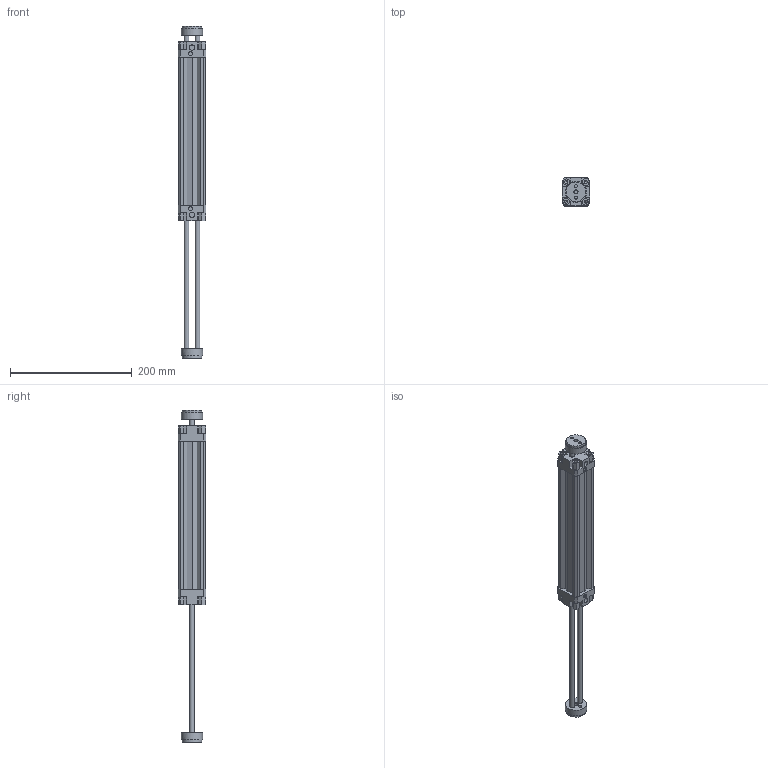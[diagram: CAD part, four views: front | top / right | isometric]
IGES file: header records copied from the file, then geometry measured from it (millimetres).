
Global section: file name: 132#_032_0200_06; native system: Autodesk Inventor 2014; preprocessor: unknown; author: A. Manieri; date: 20161006.154716; units: millimetre
Bounding box: 46 x 46 x 546 mm (x, y, z)
Volume: 352662.9 mm3; surface area: 132201.4 mm2
Topology: 2 solids, 2 shells, 190 faces, 518 edges, 354 vertices
Faces by surface type: bspline 190
